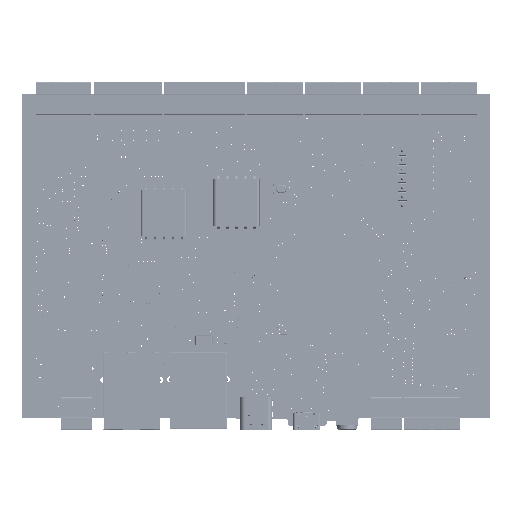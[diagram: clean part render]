
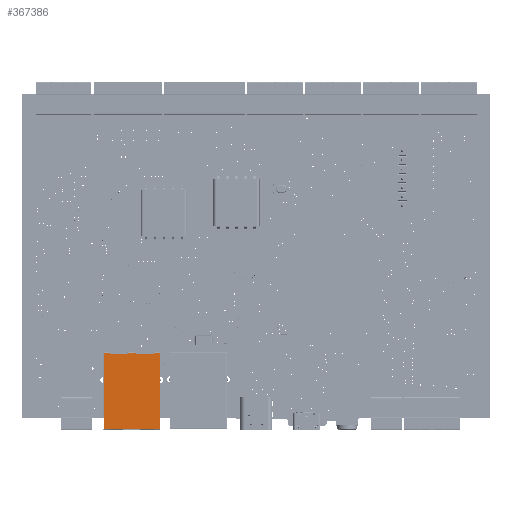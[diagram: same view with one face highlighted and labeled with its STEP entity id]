
A CAD part, top view. The second image highlights one B-rep face of the part: STEP entity #367386.
In plain terms, the highlighted planar face has unit normal (0, 0, 1).
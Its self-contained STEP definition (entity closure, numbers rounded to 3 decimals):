
#8248=CIRCLE('',#418154,0.25);
#8249=CIRCLE('',#418156,0.25);
#8252=CIRCLE('',#418161,0.25);
#8253=CIRCLE('',#418162,0.25);
#34391=FACE_OUTER_BOUND('',#56189,.T.);
#56189=EDGE_LOOP('',(#311580,#311581,#311582,#311583,#311584,#311585,#311586,
#311587,#311588,#311589,#311590,#311591,#311592,#311593,#311594,#311595));
#97242=LINE('',#636616,#138576);
#97244=LINE('',#636621,#138578);
#97266=LINE('',#636687,#138600);
#97268=LINE('',#636690,#138602);
#97269=LINE('',#636692,#138603);
#97270=LINE('',#636695,#138604);
#97271=LINE('',#636697,#138605);
#97272=LINE('',#636701,#138606);
#97273=LINE('',#636702,#138607);
#97274=LINE('',#636703,#138608);
#97275=LINE('',#636704,#138609);
#97276=LINE('',#636705,#138610);
#138576=VECTOR('',#507317,1.);
#138578=VECTOR('',#507321,1.);
#138600=VECTOR('',#507377,1.);
#138602=VECTOR('',#507381,1.);
#138603=VECTOR('',#507382,1.);
#138604=VECTOR('',#507385,1.);
#138605=VECTOR('',#507386,1.);
#138606=VECTOR('',#507389,1.);
#138607=VECTOR('',#507390,1.);
#138608=VECTOR('',#507391,1.);
#138609=VECTOR('',#507392,1.);
#138610=VECTOR('',#507393,1.);
#170828=VERTEX_POINT('',#636613);
#170829=VERTEX_POINT('',#636615);
#170830=VERTEX_POINT('',#636619);
#170831=VERTEX_POINT('',#636620);
#170848=VERTEX_POINT('',#636659);
#170851=VERTEX_POINT('',#636667);
#170852=VERTEX_POINT('',#636669);
#170854=VERTEX_POINT('',#636675);
#170855=VERTEX_POINT('',#636677);
#170857=VERTEX_POINT('',#636684);
#170858=VERTEX_POINT('',#636686);
#170859=VERTEX_POINT('',#636691);
#170860=VERTEX_POINT('',#636693);
#170861=VERTEX_POINT('',#636696);
#170862=VERTEX_POINT('',#636698);
#170863=VERTEX_POINT('',#636700);
#219257=EDGE_CURVE('',#170829,#170828,#97242,.T.);
#219259=EDGE_CURVE('',#170830,#170831,#97244,.T.);
#219284=EDGE_CURVE('',#170851,#170852,#8248,.T.);
#219288=EDGE_CURVE('',#170855,#170854,#8249,.T.);
#219293=EDGE_CURVE('',#170857,#170858,#97266,.T.);
#219295=EDGE_CURVE('',#170848,#170855,#97268,.T.);
#219296=EDGE_CURVE('',#170854,#170859,#97269,.T.);
#219297=EDGE_CURVE('',#170859,#170860,#8252,.T.);
#219298=EDGE_CURVE('',#170860,#170852,#97270,.T.);
#219299=EDGE_CURVE('',#170861,#170851,#97271,.T.);
#219300=EDGE_CURVE('',#170862,#170861,#8253,.T.);
#219301=EDGE_CURVE('',#170862,#170863,#97272,.T.);
#219302=EDGE_CURVE('',#170863,#170858,#97273,.T.);
#219303=EDGE_CURVE('',#170829,#170857,#97274,.T.);
#219304=EDGE_CURVE('',#170830,#170828,#97275,.T.);
#219305=EDGE_CURVE('',#170831,#170848,#97276,.T.);
#311580=ORIENTED_EDGE('',*,*,#219295,.T.);
#311581=ORIENTED_EDGE('',*,*,#219288,.T.);
#311582=ORIENTED_EDGE('',*,*,#219296,.T.);
#311583=ORIENTED_EDGE('',*,*,#219297,.T.);
#311584=ORIENTED_EDGE('',*,*,#219298,.T.);
#311585=ORIENTED_EDGE('',*,*,#219284,.F.);
#311586=ORIENTED_EDGE('',*,*,#219299,.F.);
#311587=ORIENTED_EDGE('',*,*,#219300,.F.);
#311588=ORIENTED_EDGE('',*,*,#219301,.T.);
#311589=ORIENTED_EDGE('',*,*,#219302,.T.);
#311590=ORIENTED_EDGE('',*,*,#219293,.F.);
#311591=ORIENTED_EDGE('',*,*,#219303,.F.);
#311592=ORIENTED_EDGE('',*,*,#219257,.T.);
#311593=ORIENTED_EDGE('',*,*,#219304,.F.);
#311594=ORIENTED_EDGE('',*,*,#219259,.T.);
#311595=ORIENTED_EDGE('',*,*,#219305,.T.);
#347522=PLANE('',#418160);
#367386=ADVANCED_FACE('',(#34391),#347522,.T.);
#418154=AXIS2_PLACEMENT_3D('',#636670,#507360,#507361);
#418156=AXIS2_PLACEMENT_3D('',#636678,#507367,#507368);
#418160=AXIS2_PLACEMENT_3D('',#636689,#507379,#507380);
#418161=AXIS2_PLACEMENT_3D('',#636694,#507383,#507384);
#418162=AXIS2_PLACEMENT_3D('',#636699,#507387,#507388);
#507317=DIRECTION('',(1.,0.,0.));
#507321=DIRECTION('',(0.,1.,0.));
#507360=DIRECTION('center_axis',(0.,0.,
1.));
#507361=DIRECTION('ref_axis',(-1.,0.,0.));
#507367=DIRECTION('center_axis',(0.,0.,
-1.));
#507368=DIRECTION('ref_axis',(-1.,0.,0.));
#507377=DIRECTION('',(0.,1.,0.));
#507379=DIRECTION('center_axis',(0.,0.,
1.));
#507380=DIRECTION('ref_axis',(0.,-1.,0.));
#507381=DIRECTION('',(-1.,0.,0.));
#507382=DIRECTION('',(-1.,0.,0.));
#507383=DIRECTION('center_axis',(0.,0.,
-1.));
#507384=DIRECTION('ref_axis',(1.,0.,0.));
#507385=DIRECTION('',(-1.,0.,0.));
#507386=DIRECTION('',(1.,0.,0.));
#507387=DIRECTION('center_axis',(0.,0.,
1.));
#507388=DIRECTION('ref_axis',(1.,0.,0.));
#507389=DIRECTION('',(-1.,0.,0.));
#507390=DIRECTION('',(0.,-1.,0.));
#507391=DIRECTION('',(-1.,0.,0.));
#507392=DIRECTION('',(-1.,0.,0.));
#507393=DIRECTION('',(0.,1.,0.));
#636613=CARTESIAN_POINT('',(32.79,-3.101,13.65));
#636615=CARTESIAN_POINT('',(28.14,-3.101,13.65));
#636616=CARTESIAN_POINT('',(28.09,-3.101,13.65));
#636619=CARTESIAN_POINT('',(38.265,-3.101,13.65));
#636620=CARTESIAN_POINT('',(38.265,0.199,13.65));
#636621=CARTESIAN_POINT('',(38.265,-3.301,13.65));
#636659=CARTESIAN_POINT('',(38.265,17.999,13.65));
#636667=CARTESIAN_POINT('',(29.215,17.827,13.65));
#636669=CARTESIAN_POINT('',(29.452,17.999,13.65));
#636670=CARTESIAN_POINT('Origin',(29.215,18.077,13.65));
#636675=CARTESIAN_POINT('',(36.415,17.827,13.65));
#636677=CARTESIAN_POINT('',(36.652,17.999,13.65));
#636678=CARTESIAN_POINT('Origin',(36.415,18.077,13.65));
#636684=CARTESIAN_POINT('',(22.665,-3.101,13.65));
#636686=CARTESIAN_POINT('',(22.665,0.199,13.65));
#636687=CARTESIAN_POINT('',(22.665,-3.301,13.65));
#636689=CARTESIAN_POINT('Origin',(38.265,-3.301,13.65));
#636690=CARTESIAN_POINT('',(38.265,17.999,13.65));
#636691=CARTESIAN_POINT('',(31.715,17.827,13.65));
#636692=CARTESIAN_POINT('',(36.415,17.827,13.65));
#636693=CARTESIAN_POINT('',(31.478,17.999,13.65));
#636694=CARTESIAN_POINT('Origin',(31.715,18.077,13.65));
#636695=CARTESIAN_POINT('',(38.265,17.999,13.65));
#636696=CARTESIAN_POINT('',(24.515,17.827,13.65));
#636697=CARTESIAN_POINT('',(24.515,17.827,13.65));
#636698=CARTESIAN_POINT('',(24.278,17.999,13.65));
#636699=CARTESIAN_POINT('Origin',(24.515,18.077,13.65));
#636700=CARTESIAN_POINT('',(22.665,17.999,13.65));
#636701=CARTESIAN_POINT('',(38.265,17.999,13.65));
#636702=CARTESIAN_POINT('',(22.665,17.999,13.65));
#636703=CARTESIAN_POINT('',(38.265,-3.101,13.65));
#636704=CARTESIAN_POINT('',(38.265,-3.101,13.65));
#636705=CARTESIAN_POINT('',(38.265,0.199,13.65));
